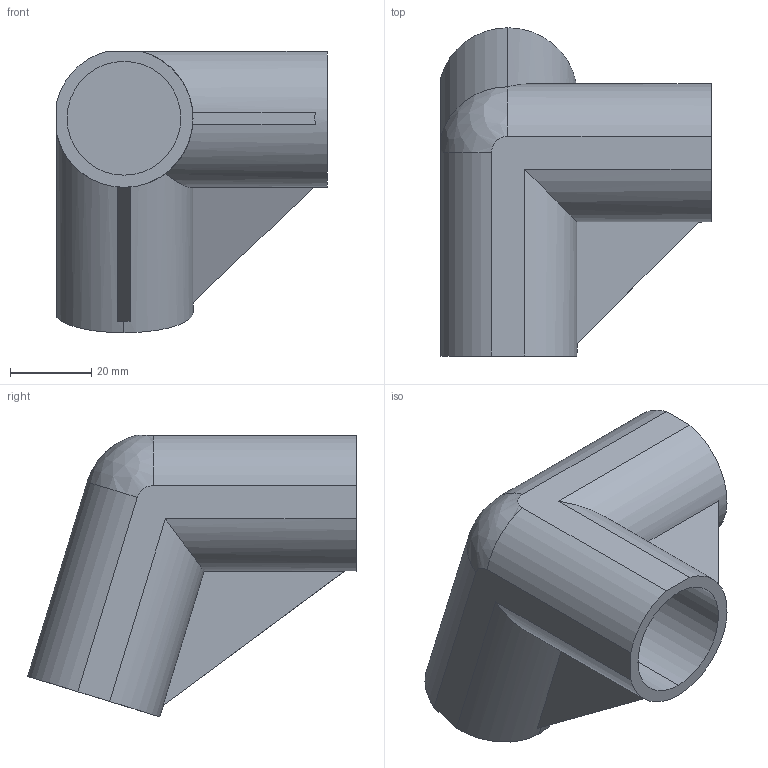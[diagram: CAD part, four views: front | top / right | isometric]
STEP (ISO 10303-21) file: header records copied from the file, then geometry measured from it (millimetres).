
FILE_DESCRIPTION (( 'STEP AP214' ), '1' );
FILE_NAME ('PJ-402.STEP', '2023-09-12T11:08:55', ( 'catia' ), ( 'HP Inc.' ), 'SwSTEP 2.0', 'SolidWorks 2021', '' );
FILE_SCHEMA (( 'AUTOMOTIVE_DESIGN' ));
Length unit declared in the file: millimetre
Products named in the file (1): PJ-402
Bounding box: 66.5 x 80.88 x 69.29 mm (x, y, z)
Volume: 71041.2 mm3; surface area: 27047.7 mm2
Topology: 1 solids, 1 shells, 30 faces, 74 edges, 49 vertices
Faces by surface type: plane 17, cylinder 12, bspline 1
Entity records: 964 total; most frequent: CARTESIAN_POINT 240, ORIENTED_EDGE 148, DIRECTION 140, EDGE_CURVE 74, AXIS2_PLACEMENT_3D 51, VERTEX_POINT 49, LINE 38, VECTOR 38
